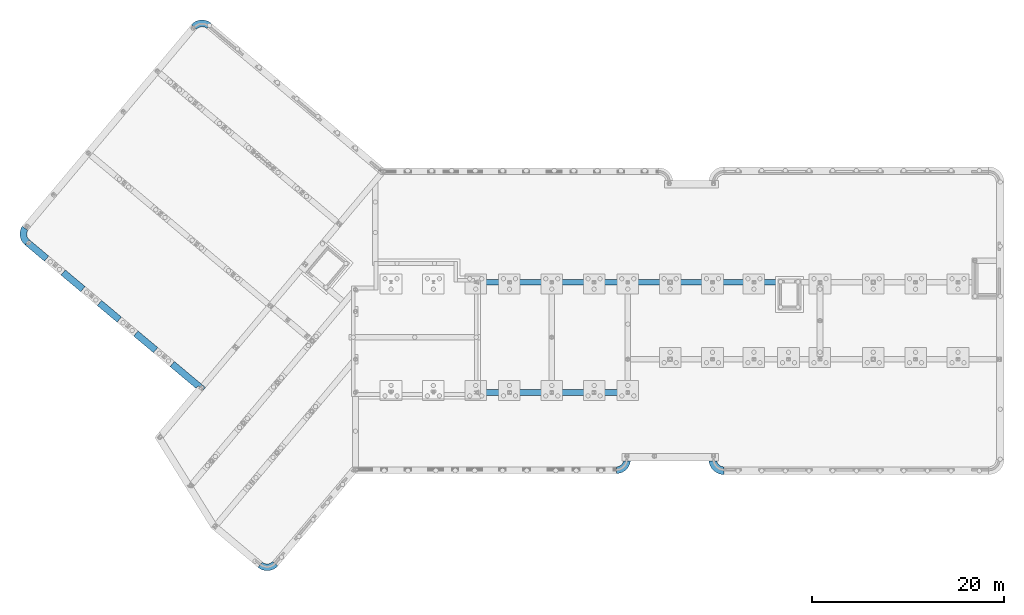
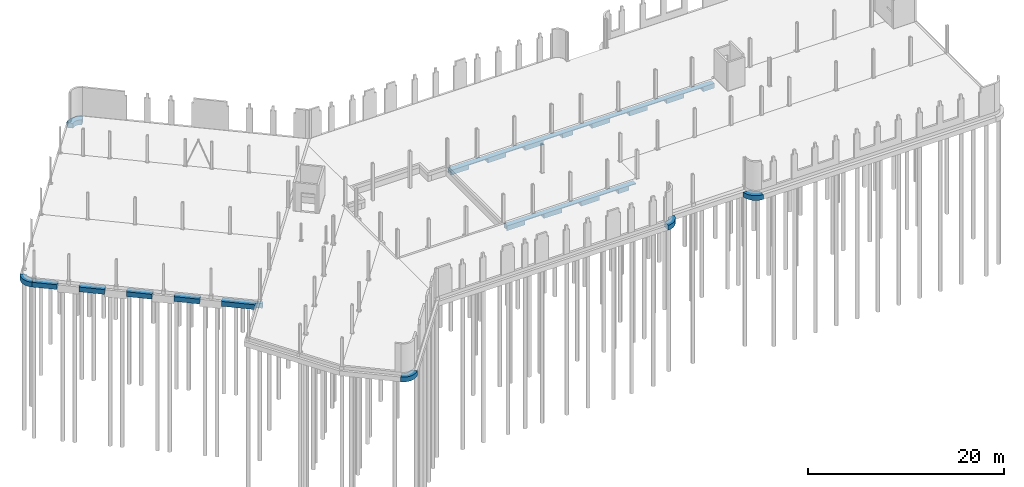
# One storey, part 23 of 26: 8 beams.
"""IFC2X3 building model written with IfcOpenShell, lengths in millimetres."""

from ifc_helpers import new_model, entity, si_unit, converted_unit, derived_unit, direction, frame, origin, place, context, subcontext, project, spatial, faceted_brep, source, transform, mapped, material, type_object, type_shapes, element, save


model = new_model("IFC2X3")

# Units and contexts
model_context = context("Model", 3, precision=0.01, world=origin(), true_north=direction((6.123031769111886e-17, 1.0)))
body_context = subcontext(model_context, "Body", "Model", "MODEL_VIEW")
ifc_project = project(units=[si_unit("LENGTHUNIT", "METRE", prefix="MILLI"), si_unit("AREAUNIT", "SQUARE_METRE"), si_unit("VOLUMEUNIT", "CUBIC_METRE"), derived_unit("MASSDENSITYUNIT", [(si_unit("MASSUNIT", "GRAM", prefix="KILO"), 1), (si_unit("LENGTHUNIT", "METRE"), -3)]), si_unit("MASSUNIT", "GRAM", prefix="KILO"), converted_unit("PLANEANGLEUNIT", "DEGREE", entity("IfcPlaneAngleMeasure", 0.017453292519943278), si_unit("PLANEANGLEUNIT", "RADIAN"), dimensions=[0, 0, 0, 0, 0, 0, 0])], contexts=[model_context])

# Site, building, storey
site_placement = place(None, origin())
site = spatial("IfcSite", under=ifc_project, at=site_placement, Name="Default", CompositionType="ELEMENT")
building_placement = place(site_placement, origin())
building = spatial("IfcBuilding", under=site, at=building_placement, Name="AT constructie", CompositionType="ELEMENT")
storey_placement = place(building_placement, origin())
storey = spatial("IfcBuildingStorey", under=building, at=storey_placement, Name="00 begane grond", CompositionType="ELEMENT", Elevation=-1.0828671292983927e-12)

# Beams
ifc_material = material(Name="f2_beton ihwg_gen")
beam_type_1 = type_object("IfcBeamType", Name="fund vierkant_gen_800x600", PredefinedType="NOTDEFINED")
beam_1_placement = place(storey_placement, frame((77870.22380400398, 11283.44823628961, -1050.0), z_axis=(0.0, 0.0, -1.0), x_axis=(-1.0, 0.0, 0.0)))
element("IfcBeam", 1, at=beam_1_placement, inside=storey, type_object=beam_type_1, material=ifc_material, Name="NLRS_16_SF_LIB_balk fundering beton_gen_AT:fund vierkant_gen_800x600", ObjectType="NLRS_16_SF_LIB_balk fundering beton_gen_AT:fund vierkant_gen_800x600", context=body_context, shape_type="Brep", body=[
    faceted_brep([(-1576.6508271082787, 801.5952722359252, -600.0), (-1481.7136797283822, 807.349837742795, -600.0), (-1388.1666647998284, 824.5292721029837, -600.0), (-1297.3795594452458, 852.8820226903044, -600.0), (-1210.6817284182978, 891.9929297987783, -600.0), (-1129.3426586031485, 941.2893056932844, -600.0), (-1054.5533703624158, 1000.0493202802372, -600.0), (-987.4089778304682, 1067.4125706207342, -600.0), (-928.8926535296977, 1142.3926795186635, -600.0), (-879.8612321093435, 1223.8917387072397, -600.0), (-841.032664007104, 1310.716385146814, -600.0), (-812.9755028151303, 1401.5952747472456, -600.0), (-1.5952722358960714, 1401.595274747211, -600.0), (-23.227712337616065, 1267.7943552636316, -600.0), (-56.20524086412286, 1136.3290323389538, -600.0), (-100.28701359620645, 1008.1594344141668, -600.0), (-155.15108887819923, 884.2216203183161, -600.0), (-220.39677884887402, 765.4207429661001, -600.0), (-295.54757577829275, 652.6244387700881, -600.0), (-380.0546321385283, 546.6564910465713, -600.0), (-473.30076899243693, 448.2908136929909, -600.0), (-574.6049834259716, 358.24579907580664, -600.0), (-683.2274221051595, 277.17907140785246, -600.0), (-798.3747846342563, 205.68268393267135, -600.0), (-919.2061172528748, 144.27879499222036, -600.0), (-1044.8389545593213, 93.41585455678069, -600.0), (-1174.355764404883, 53.4653290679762, -600.0), (-1306.810648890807, 24.71898851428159, -600.0), (-1441.236252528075, 7.386775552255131, -600.0), (-1576.650827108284, 1.595272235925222, -600.0), (-1441.236252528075, 7.386775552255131, 0.0), (-1306.810648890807, 24.71898851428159, 0.0), (-1576.650827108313, 1.595272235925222, 0.0), (-1174.355764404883, 53.4653290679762, 0.0), (-683.2274221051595, 277.17907140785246, 0.0), (-798.3747846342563, 205.68268393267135, 0.0), (-1044.8389545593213, 93.41585455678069, 0.0), (-919.2061172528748, 144.27879499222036, 0.0), (-574.6049834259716, 358.24579907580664, 0.0), (-473.30076899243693, 448.2908136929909, 0.0), (-380.0546321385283, 546.6564910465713, 0.0), (-295.54757577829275, 652.6244387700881, 0.0), (-220.39677884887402, 765.4207429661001, 0.0), (-23.227712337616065, 1267.7943552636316, 0.0), (-56.20524086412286, 1136.3290323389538, 0.0), (-155.15108887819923, 884.2216203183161, 0.0), (-100.28701359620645, 1008.1594344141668, 0.0), (-1.5952722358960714, 1401.595274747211, 0.0), (-812.9755028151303, 1401.5952747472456, 0.0), (-841.032664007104, 1310.7163851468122, 0.0), (-879.8612321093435, 1223.8917387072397, 0.0), (-928.8926535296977, 1142.3926795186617, 0.0), (-987.4089778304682, 1067.4125706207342, 0.0), (-1054.5533703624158, 1000.049320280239, 0.0), (-1129.3426586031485, 941.2893056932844, 0.0), (-1210.6817284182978, 891.9929297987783, 0.0), (-1297.3795594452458, 852.8820226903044, 0.0), (-1388.1666647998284, 824.5292721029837, 0.0), (-1481.7136797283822, 807.3498377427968, 0.0), (-1576.6508271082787, 801.5952722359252, 0.0)], [[[0, 1, 2, 3, 4, 5, 6, 7, 8, 9, 10, 11, 12, 13, 14, 15, 16, 17, 18, 19, 20, 21, 22, 23, 24, 25, 26, 27, 28, 29]], [[30, 28, 27, 31]], [[32, 29, 28, 30]], [[31, 27, 26, 33]], [[23, 22, 34, 35]], [[36, 25, 24, 37]], [[37, 24, 23, 35]], [[26, 25, 36, 33]], [[34, 22, 21, 38]], [[21, 20, 39, 38]], [[40, 19, 18, 41]], [[39, 20, 19, 40]], [[41, 18, 17, 42]], [[14, 13, 43, 44]], [[45, 16, 15, 46]], [[46, 15, 14, 44]], [[17, 16, 45, 42]], [[43, 13, 12, 47]], [[32, 30, 31, 33, 36, 37, 35, 34, 38, 39, 40, 41, 42, 45, 46, 44, 43, 47, 48, 49, 50, 51, 52, 53, 54, 55, 56, 57, 58, 59]], [[1, 0, 59, 58]], [[1, 58, 57, 2]], [[4, 3, 56, 55]], [[57, 56, 3, 2]], [[5, 4, 55, 54]], [[54, 53, 6, 5]], [[7, 6, 53, 52]], [[7, 52, 51, 8]], [[10, 9, 50, 49]], [[51, 50, 9, 8]], [[11, 10, 49, 48]], [[29, 32, 59, 0]], [[47, 12, 11, 48]]]),
])
beam_type_2 = type_object("IfcBeamType", Name="fund vierkant_gen_700x600", PredefinedType="NOTDEFINED")
beam_2_placement = place(storey_placement, frame((24100.44900854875, 57553.58085823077, -1050.0), z_axis=(0.0, 0.0, -1.0), x_axis=(-1.0, 0.0, 0.0)))
element("IfcBeam", 2, at=beam_2_placement, inside=storey, type_object=beam_type_2, material=ifc_material, Name="NLRS_16_SF_LIB_balk fundering beton_gen_AT:fund vierkant_gen_700x600", ObjectType="NLRS_16_SF_LIB_balk fundering beton_gen_AT:fund vierkant_gen_700x600", context=body_context, shape_type="Brep", body=[
    faceted_brep([(-1959.7532288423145, 691.64728207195, -600.0), (-1845.8274136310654, 763.5070300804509, -600.0), (-1725.862718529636, 824.7555948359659, -600.0), (-1600.8447939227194, 874.8897476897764, -600.0), (-1471.800808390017, 913.497577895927, -600.0), (-1339.7910093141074, 940.261876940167, -600.0), (-1205.9000117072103, 954.9627447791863, -600.0), (-1071.2278868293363, 957.4793965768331, -600.0), (-936.8811238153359, 947.7911550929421, -600.0), (-803.9635385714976, 925.9776205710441, -600.0), (-673.5672046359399, 892.2180167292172, -600.0), (-546.763480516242, 846.7897182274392, -600.0), (-424.59420722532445, 790.0659717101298, -600.0), (-308.0631483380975, 722.5128291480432, -600.0), (-198.12774289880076, 644.6853186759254, -600.0), (-95.69123893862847, 557.2228843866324, -600.0), (-1.5952722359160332, 460.8441325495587, -600.0), (-530.0248254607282, 1.5952722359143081, -600.0), (-596.2378561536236, 66.13920495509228, -600.0), (-669.5726388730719, 122.46055373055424, -600.0), (-749.0142453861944, 169.7798504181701, -600.0), (-833.4632311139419, 207.4422121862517, -600.0), (-921.7508510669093, 234.9264048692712, -600.0), (-1012.6552348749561, 251.85205666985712, -600.0), (-1104.9182970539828, 257.98492237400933, -600.0), (-1197.263148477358, 253.24012522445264, -600.0), (-1288.411768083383, 237.68333158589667, -600.0), (-1377.1026902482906, 211.5298421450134, -600.0), (-1462.1084630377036, 175.14161222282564, -600.0), (-1542.252635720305, 129.02224243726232, -600.0), (-1616.4260404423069, 73.81000904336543, -600.0), (-2066.704130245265, 609.7667627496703, -600.0), (-95.69123893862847, 557.2228843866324, 0.0), (-198.12774289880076, 644.6853186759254, 0.0), (-1.5952722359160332, 460.8441325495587, 0.0), (-308.0631483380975, 722.5128291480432, 0.0), (-803.9635385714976, 925.9776205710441, 0.0), (-673.5672046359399, 892.2180167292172, 0.0), (-424.59420722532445, 790.0659717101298, 0.0), (-546.763480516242, 846.7897182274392, 0.0), (-936.8811238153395, 947.7911550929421, 0.0), (-1071.2278868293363, 957.4793965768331, 0.0), (-1205.9000117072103, 954.9627447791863, 0.0), (-1339.7910093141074, 940.261876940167, 0.0), (-1471.800808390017, 913.497577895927, 0.0), (-1959.7532288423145, 691.64728207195, 0.0), (-1845.8274136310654, 763.5070300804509, 0.0), (-1600.8447939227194, 874.8897476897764, 0.0), (-1725.862718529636, 824.7555948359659, 0.0), (-2066.704130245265, 609.7667627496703, 0.0), (-1616.4260404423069, 73.81000904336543, 0.0), (-1542.252635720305, 129.02224243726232, 0.0), (-1462.1084630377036, 175.14161222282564, 0.0), (-1377.1026902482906, 211.5298421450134, 0.0), (-1288.411768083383, 237.68333158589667, 0.0), (-1197.263148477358, 253.24012522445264, 0.0), (-1104.9182970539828, 257.98492237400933, 0.0), (-1012.6552348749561, 251.85205666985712, 0.0), (-921.7508510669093, 234.9264048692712, 0.0), (-833.4632311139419, 207.4422121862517, 0.0), (-749.0142453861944, 169.7798504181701, 0.0), (-669.5726388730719, 122.46055373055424, 0.0), (-596.2378561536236, 66.13920495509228, 0.0), (-530.0248254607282, 1.5952722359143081, 0.0)], [[[0, 1, 2, 3, 4, 5, 6, 7, 8, 9, 10, 11, 12, 13, 14, 15, 16, 17, 18, 19, 20, 21, 22, 23, 24, 25, 26, 27, 28, 29, 30, 31]], [[32, 15, 14, 33]], [[34, 16, 15, 32]], [[33, 14, 13, 35]], [[10, 9, 36, 37]], [[38, 12, 11, 39]], [[39, 11, 10, 37]], [[13, 12, 38, 35]], [[36, 9, 8, 40]], [[8, 7, 41, 40]], [[42, 6, 5, 43]], [[41, 7, 6, 42]], [[43, 5, 4, 44]], [[1, 0, 45, 46]], [[47, 3, 2, 48]], [[48, 2, 1, 46]], [[4, 3, 47, 44]], [[45, 0, 31, 49]], [[49, 50, 51, 52, 53, 54, 55, 56, 57, 58, 59, 60, 61, 62, 63, 34, 32, 33, 35, 38, 39, 37, 36, 40, 41, 42, 43, 44, 47, 48, 46, 45]], [[18, 17, 63, 62]], [[18, 62, 61, 19]], [[59, 58, 22, 21]], [[21, 20, 60, 59]], [[20, 19, 61, 60]], [[23, 22, 58, 57]], [[57, 56, 24, 23]], [[25, 24, 56, 55]], [[25, 55, 54, 26]], [[52, 51, 29, 28]], [[28, 27, 53, 52]], [[27, 26, 54, 53]], [[30, 29, 51, 50]], [[30, 50, 49, 31]], [[17, 16, 34, 63]]]),
])
beam_3_placement = place(storey_placement, frame((6295.653060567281, 35133.452745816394, -1050.0), z_axis=(0.0, 0.0, -1.0), x_axis=(1.0, 0.0, 0.0)))
element("IfcBeam", 3, at=beam_3_placement, inside=storey, type_object=beam_type_2, material=ifc_material, Name="NLRS_16_SF_LIB_balk fundering beton_gen_AT:fund vierkant_gen_700x600", ObjectType="NLRS_16_SF_LIB_balk fundering beton_gen_AT:fund vierkant_gen_700x600", context=body_context, shape_type="Brep", body=[
    faceted_brep([(1.595272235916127, -1181.4801563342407, -600.0), (3.879105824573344, -1047.7120887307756, -600.0), (18.1848820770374, -914.6915768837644, -600.0), (44.396641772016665, -783.4968534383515, -600.0), (82.30191861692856, -655.1913516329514, -600.0), (131.59346144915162, -530.8150853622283, -600.0), (191.87172474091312, -411.37621907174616, -600.0), (262.6481072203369, -297.8428958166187, -600.0), (343.348912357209, -191.1353897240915, -600.0), (433.3199986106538, -92.11864647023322, -600.0), (531.8320817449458, -1.5952722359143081, -600.0), (981.7834085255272, -537.8263824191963, -600.0), (909.8217014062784, -606.4164545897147, -600.0), (847.093536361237, -683.5414349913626, -600.0), (794.6023964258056, -767.9675300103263, -600.0), (753.187999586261, -858.344147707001, -600.0), (723.5128655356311, -953.2255036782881, -600.0), (706.051717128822, -1051.0937497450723, -600.0), (701.0838860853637, -1150.383255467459, -600.0), (708.6888444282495, -1249.5056540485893, -600.0), (728.7449331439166, -1346.8752519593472, -600.0), (760.9313084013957, -1440.9343957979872, -600.0), (804.733074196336, -1530.178390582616, -600.0), (234.61576085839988, -1939.7457130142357, -600.0), (167.75622606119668, -1823.8625200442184, -600.0), (111.59028495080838, -1702.4355919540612, -600.0), (66.57320529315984, -1576.4491865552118, -600.0), (33.06988483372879, -1446.9245196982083, -600.0), (11.351893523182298, -1314.9114875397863, -600.0), (343.348912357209, -191.1353897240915, 0.0), (262.6481072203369, -297.8428958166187, 0.0), (433.3199986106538, -92.11864647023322, 0.0), (191.87172474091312, -411.37621907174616, 0.0), (44.396641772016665, -783.4968534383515, 0.0), (82.30191861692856, -655.1913516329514, 0.0), (131.59346144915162, -530.8150853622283, 0.0), (18.1848820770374, -914.6915768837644, 0.0), (531.8320817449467, -1.5952722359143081, 0.0), (1.595272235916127, -1181.4801563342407, 0.0), (11.351893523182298, -1314.9114875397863, 0.0), (3.879105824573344, -1047.7120887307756, 0.0), (33.06988483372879, -1446.9245196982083, 0.0), (167.75622606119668, -1823.8625200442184, 0.0), (111.59028495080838, -1702.4355919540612, 0.0), (66.57320529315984, -1576.4491865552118, 0.0), (234.61576085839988, -1939.7457130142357, 0.0), (804.7330741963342, -1530.178390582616, 0.0), (760.9313084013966, -1440.9343957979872, 0.0), (728.7449331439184, -1346.8752519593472, 0.0), (708.6888444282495, -1249.5056540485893, 0.0), (701.0838860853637, -1150.3832554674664, 0.0), (706.051717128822, -1051.0937497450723, 0.0), (723.5128655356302, -953.2255036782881, 0.0), (753.18799958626, -858.344147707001, 0.0), (794.6023964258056, -767.9675300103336, 0.0), (847.0935363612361, -683.5414349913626, 0.0), (909.8217014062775, -606.4164545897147, 0.0), (981.7834085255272, -537.8263824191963, 0.0)], [[[0, 1, 2, 3, 4, 5, 6, 7, 8, 9, 10, 11, 12, 13, 14, 15, 16, 17, 18, 19, 20, 21, 22, 23, 24, 25, 26, 27, 28]], [[29, 8, 7, 30]], [[31, 9, 8, 29]], [[30, 7, 6, 32]], [[4, 3, 33, 34]], [[35, 5, 4, 34]], [[32, 6, 5, 35]], [[33, 3, 2, 36]], [[10, 9, 31, 37]], [[38, 0, 28, 39]], [[40, 1, 0, 38]], [[39, 28, 27, 41]], [[25, 24, 42, 43]], [[44, 26, 25, 43]], [[41, 27, 26, 44]], [[42, 24, 23, 45]], [[36, 2, 1, 40]], [[39, 41, 44, 43, 42, 45, 46, 47, 48, 49, 50, 51, 52, 53, 54, 55, 56, 57, 37, 31, 29, 30, 32, 35, 34, 33, 36, 40, 38]], [[12, 11, 57, 56]], [[12, 56, 55, 13]], [[15, 14, 54, 53]], [[55, 54, 14, 13]], [[16, 15, 53, 52]], [[52, 51, 17, 16]], [[18, 17, 51, 50]], [[18, 50, 49, 19]], [[21, 20, 48, 47]], [[49, 48, 20, 19]], [[22, 21, 47, 46]], [[46, 45, 23, 22]], [[10, 37, 57, 11]]]),
])
beam_4_placement = place(storey_placement, frame((68245.27935887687, 11383.448236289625, -1050.0), z_axis=(0.0, 0.0, -1.0), x_axis=(1.0, 0.0, 0.0)))
element("IfcBeam", 4, at=beam_4_placement, inside=storey, type_object=beam_type_2, material=ifc_material, Name="NLRS_16_SF_LIB_balk fundering beton_gen_AT:fund vierkant_gen_700x600", ObjectType="NLRS_16_SF_LIB_balk fundering beton_gen_AT:fund vierkant_gen_700x600", context=body_context, shape_type="Brep", body=[
    faceted_brep([(765.2705965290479, -1301.5952747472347, -600.0), (739.9683917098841, -1218.1492916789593, -600.0), (705.5796467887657, -1138.0212451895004, -600.0), (662.5284133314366, -1062.1973608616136, -600.0), (611.3447613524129, -991.6098283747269, -600.0), (552.658532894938, -927.1264660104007, -600.0), (487.1916231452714, -869.5401096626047, -600.0), (415.7491413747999, -819.5589164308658, -600.0), (339.20955880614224, -777.7977000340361, -600.0), (258.51396264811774, -744.7704028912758, -600.0), (174.65454627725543, -720.8837960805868, -600.0), (88.66440448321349, -706.4326987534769, -600.0), (1.595272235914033, -701.5952722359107, -600.0), (1.595272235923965, -1.5952722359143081, -600.0), (135.64493519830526, -7.653824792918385, -600.0), (268.60153365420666, -25.7800799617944, -600.0), (399.380916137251, -55.826233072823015, -600.0), (526.9166845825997, -97.54728251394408, -600.0), (650.1688899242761, -150.60302751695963, -600.0), (768.1325120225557, -214.56084221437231, -600.0), (879.845654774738, -288.89920334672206, -600.0), (984.3973895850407, -373.0119428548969, -600.0), (1080.93518323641, -466.21319068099, -600.0), (1168.6718495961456, -567.7429674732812, -600.0), (1246.8919684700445, -676.7733815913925, -600.0), (1314.957719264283, -792.4153798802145, -600.0), (1372.314081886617, -913.7259971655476, -600.0), (1418.4933624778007, -1039.716045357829, -600.0), (1453.1190070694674, -1169.358179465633, -600.0), (1475.9086720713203, -1301.595274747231, -600.0), (1418.4933624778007, -1039.7160453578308, 0.0), (1372.314081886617, -913.7259971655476, 0.0), (1453.1190070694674, -1169.358179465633, 0.0), (1314.957719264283, -792.4153798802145, 0.0), (1080.93518323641, -466.21319068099, 0.0), (1168.6718495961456, -567.7429674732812, 0.0), (1246.8919684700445, -676.7733815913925, 0.0), (984.3973895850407, -373.0119428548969, 0.0), (1475.9086720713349, -1301.5952747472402, 0.0), (768.1325120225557, -214.56084221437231, 0.0), (650.1688899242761, -150.60302751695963, 0.0), (879.845654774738, -288.89920334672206, 0.0), (526.9166845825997, -97.54728251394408, 0.0), (135.64493519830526, -7.653824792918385, 0.0), (268.60153365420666, -25.7800799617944, 0.0), (399.380916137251, -55.826233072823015, 0.0), (1.595272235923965, -1.5952722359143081, 0.0), (1.595272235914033, -701.5952722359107, 0.0), (88.66440448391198, -706.4326987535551, 0.0), (174.65454632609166, -720.883796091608, 0.0), (258.51396273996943, -744.7704029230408, 0.0), (339.20955891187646, -777.7977000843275, 0.0), (415.7491414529, -819.5589164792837, 0.0), (487.1916231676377, -869.540109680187, 0.0), (552.6585328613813, -927.1264659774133, 0.0), (611.3447612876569, -991.6098282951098, 0.0), (662.5284132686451, -1062.1973607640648, 0.0), (705.5796467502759, -1138.0212451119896, 0.0), (739.9683916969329, -1218.1492916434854, 0.0), (765.2705965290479, -1301.5952747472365, 0.0)], [[[0, 1, 2, 3, 4, 5, 6, 7, 8, 9, 10, 11, 12, 13, 14, 15, 16, 17, 18, 19, 20, 21, 22, 23, 24, 25, 26, 27, 28, 29]], [[30, 27, 26, 31]], [[32, 28, 27, 30]], [[31, 26, 25, 33]], [[23, 22, 34, 35]], [[36, 24, 23, 35]], [[33, 25, 24, 36]], [[34, 22, 21, 37]], [[29, 28, 32, 38]], [[39, 19, 18, 40]], [[41, 20, 19, 39]], [[40, 18, 17, 42]], [[15, 14, 43, 44]], [[45, 16, 15, 44]], [[42, 17, 16, 45]], [[43, 14, 13, 46]], [[37, 21, 20, 41]], [[38, 32, 30, 31, 33, 36, 35, 34, 37, 41, 39, 40, 42, 45, 44, 43, 46, 47, 48, 49, 50, 51, 52, 53, 54, 55, 56, 57, 58, 59]], [[1, 0, 59, 58]], [[1, 58, 57, 2]], [[4, 3, 56, 55]], [[57, 56, 3, 2]], [[5, 4, 55, 54]], [[53, 6, 5, 54]], [[8, 7, 52, 51]], [[8, 51, 50, 9]], [[11, 10, 48]], [[49, 10, 9, 50]], [[12, 11, 48, 47]], [[6, 53, 52, 7]], [[10, 49, 48]], [[0, 29, 38, 59]], [[12, 47, 46, 13]]]),
])
beam_5_placement = place(storey_placement, frame((31023.251360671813, 1297.1674852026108, -1050.0), z_axis=(0.0, 0.0, -1.0), x_axis=(1.0, 0.0, 0.0)))
element("IfcBeam", 5, at=beam_5_placement, inside=storey, type_object=beam_type_2, material=ifc_material, Name="NLRS_16_SF_LIB_balk fundering beton_gen_AT:fund vierkant_gen_700x600", ObjectType="NLRS_16_SF_LIB_balk fundering beton_gen_AT:fund vierkant_gen_700x600", context=body_context, shape_type="Brep", body=[
    faceted_brep([(108.54656797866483, -267.39547035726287, -600.0), (222.47205839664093, -195.54157903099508, -600.0), (342.4357594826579, -134.29854279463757, -600.0), (467.4520787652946, -84.16951947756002, -600.0), (596.4939126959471, -45.56635689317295, -600.0), (728.5010850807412, -18.806209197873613, -600.0), (862.3890572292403, -4.108931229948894, -600.0), (997.0578382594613, -1.5952722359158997, -600.0), (1131.40102235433, -11.285883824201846, -600.0), (1264.3148787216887, -33.10115029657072, -600.0), (1394.7074195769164, -66.86184275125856, -600.0), (1521.5073716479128, -112.29059158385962, -600.0), (1643.6729774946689, -169.01416528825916, -600.0), (1760.2005543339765, -236.56653683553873, -600.0), (1870.1327400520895, -314.39271243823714, -600.0), (1972.5663586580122, -401.85329124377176, -600.0), (2066.6598405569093, -498.22971849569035, -600.0), (1538.2302876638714, -957.4785792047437, -600.0), (1472.019035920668, -892.936187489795, -600.0), (1398.68636945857, -836.6159405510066, -600.0), (1319.2471356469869, -789.2972516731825, -600.0), (1234.8006903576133, -751.6349619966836, -600.0), (1146.5156840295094, -724.1502782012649, -600.0), (1055.6138887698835, -707.2235595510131, -600.0), (963.3532903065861, -701.0890541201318, -600.0), (871.0106787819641, -705.8316570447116, -600.0), (779.8639793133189, -721.3857356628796, -600.0), (691.1745668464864, -747.5360378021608, -600.0), (606.1698100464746, -783.9206706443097, -600.0), (526.0260857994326, -830.036108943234, -600.0), (451.85249938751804, -885.244163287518, -600.0), (1.5952722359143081, -349.2698827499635, -600.0), (1972.5663586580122, -401.85329124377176, 0.0), (1870.1327400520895, -314.39271243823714, 0.0), (2066.6598405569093, -498.22971849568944, 0.0), (1760.2005543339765, -236.56653683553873, 0.0), (1264.3148787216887, -33.10115029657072, 0.0), (1394.7074195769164, -66.86184275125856, 0.0), (1643.6729774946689, -169.01416528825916, 0.0), (1521.5073716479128, -112.29059158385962, 0.0), (1131.40102235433, -11.285883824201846, 0.0), (997.0578382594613, -1.5952722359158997, 0.0), (862.3890572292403, -4.108931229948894, 0.0), (728.5010850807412, -18.806209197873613, 0.0), (596.4939126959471, -45.56635689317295, 0.0), (108.54656797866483, -267.39547035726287, 0.0), (222.47205839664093, -195.54157903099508, 0.0), (467.4520787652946, -84.16951947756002, 0.0), (342.4357594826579, -134.29854279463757, 0.0), (1.5952722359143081, -349.2698827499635, 0.0), (451.85249938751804, -885.244163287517, 0.0), (526.0260857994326, -830.036108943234, 0.0), (606.1698100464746, -783.9206706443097, 0.0), (691.1745668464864, -747.5360378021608, 0.0), (779.8639793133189, -721.3857356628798, 0.0), (871.0106787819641, -705.8316570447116, 0.0), (963.3532903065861, -701.0890541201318, 0.0), (1055.6138887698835, -707.2235595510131, 0.0), (1146.5156840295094, -724.1502782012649, 0.0), (1234.8006903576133, -751.6349619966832, 0.0), (1319.2471356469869, -789.2972516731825, 0.0), (1398.68636945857, -836.6159405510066, 0.0), (1472.019035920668, -892.936187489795, 0.0), (1538.2302876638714, -957.4785792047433, 0.0)], [[[0, 1, 2, 3, 4, 5, 6, 7, 8, 9, 10, 11, 12, 13, 14, 15, 16, 17, 18, 19, 20, 21, 22, 23, 24, 25, 26, 27, 28, 29, 30, 31]], [[32, 15, 14, 33]], [[34, 16, 15, 32]], [[33, 14, 13, 35]], [[10, 9, 36, 37]], [[38, 12, 11, 39]], [[39, 11, 10, 37]], [[13, 12, 38, 35]], [[36, 9, 8, 40]], [[8, 7, 41, 40]], [[42, 6, 5, 43]], [[41, 7, 6, 42]], [[43, 5, 4, 44]], [[1, 0, 45, 46]], [[47, 3, 2, 48]], [[48, 2, 1, 46]], [[4, 3, 47, 44]], [[45, 0, 31, 49]], [[49, 50, 51, 52, 53, 54, 55, 56, 57, 58, 59, 60, 61, 62, 63, 34, 32, 33, 35, 38, 39, 37, 36, 40, 41, 42, 43, 44, 47, 48, 46, 45]], [[18, 17, 63, 62]], [[18, 62, 61, 19]], [[59, 58, 22, 21]], [[21, 20, 60, 59]], [[20, 19, 61, 60]], [[23, 22, 58, 57]], [[57, 56, 24, 23]], [[25, 24, 56, 55]], [[25, 55, 54, 26]], [[52, 51, 29, 28]], [[28, 27, 53, 52]], [[27, 26, 54, 53]], [[30, 29, 51, 50]], [[34, 63, 17, 16]], [[49, 31, 30, 50]]]),
])
beam_type_3 = type_object("IfcBeamType", Name="fund vierkant_gen_700x600", PredefinedType="BEAM", material=ifc_material)
shared_shape = source(origin(), body_context, "Body", "Brep", [
    faceted_brep([(17754.229035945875, 181.83577168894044, 600.0), (17979.20469933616, 449.9513267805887, 600.0), (18515.43580951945, 0.0, 600.0), (18740.41147290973, 268.1155550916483, 600.0), (18280.784807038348, 653.7881209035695, 600.0), (15508.469967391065, 2980.0364803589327, 600.0), (15058.51864061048, 2443.80537017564, 600.0), (17754.229035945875, 181.83577168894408, 0.0), (15058.51864061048, 2443.80537017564, 0.0), (17979.20469933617, 449.9513267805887, 0.0), (15508.469967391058, 2980.0364803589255, 0.0), (18280.784807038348, 653.7881209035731, 0.0), (18740.41147290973, 268.1155550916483, 0.0), (18515.435809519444, 0.0, 0.0)], [[[0, 1, 2, 3, 4, 5, 6]], [[7, 0, 6, 8]], [[9, 7, 8, 10, 11, 12, 13]], [[3, 12, 11, 10, 5, 4]], [[1, 0, 7, 9]], [[1, 9, 13, 2]], [[12, 3, 2, 13]], [[6, 5, 10, 8]]]),
    faceted_brep([(449.9513267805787, 15615.633917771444, 600.0), (449.95132678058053, 15615.633917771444, 0.0), (0.0, 15079.402807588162, 0.0), (0.0, 15079.402807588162, 600.0), (2455.0726566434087, 13933.137349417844, 600.0), (2005.1213298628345, 13396.906239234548, 600.0), (2005.1213298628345, 13396.906239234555, 0.0), (2455.0726566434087, 13933.137349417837, 0.0)], [[[0, 1, 2, 3]], [[4, 5, 6, 7]], [[0, 3, 5, 4]], [[3, 2, 6, 5]], [[2, 1, 7, 6]], [[1, 0, 4, 7]]]),
    faceted_brep([(6231.671761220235, 10764.194433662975, 600.0), (5781.720434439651, 10227.963323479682, 600.0), (5781.720434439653, 10227.96332347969, 0.0), (6231.671761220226, 10764.194433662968, 0.0), (4178.672653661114, 12486.865227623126, 600.0), (3728.721326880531, 11950.634117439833, 600.0), (3728.721326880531, 11950.634117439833, 0.0), (4178.672653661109, 12486.865227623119, 0.0)], [[[0, 1, 2, 3]], [[1, 0, 4, 5]], [[2, 1, 5, 6]], [[3, 2, 6, 7]], [[0, 3, 7, 4]], [[5, 4, 7, 6]]]),
    faceted_brep([(7505.320431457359, 8781.691201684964, 600.0), (7955.271758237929, 9317.922311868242, 600.0), (7955.271758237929, 9317.922311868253, 0.0), (7505.320431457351, 8781.691201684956, 0.0), (10008.270865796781, 7595.251517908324, 600.0), (9558.3195390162, 7059.020407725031, 600.0), (9558.319539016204, 7059.020407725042, 0.0), (10008.270865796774, 7595.25151790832, 0.0)], [[[0, 1, 2, 3]], [[4, 5, 6, 7]], [[1, 0, 5, 4]], [[0, 3, 6, 5]], [[3, 2, 7, 6]], [[2, 1, 4, 7]]]),
    faceted_brep([(11281.919536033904, 5612.74828593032, 600.0), (11731.870862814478, 6148.979396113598, 600.0), (11731.870862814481, 6148.979396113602, 0.0), (11281.919536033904, 5612.748285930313, 0.0), (13784.86997037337, 4426.308602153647, 600.0), (13334.918643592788, 3890.077491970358, 600.0), (13334.918643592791, 3890.0774919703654, 0.0), (13784.869970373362, 4426.308602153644, 0.0)], [[[0, 1, 2, 3]], [[4, 5, 6, 7]], [[1, 0, 5, 4]], [[0, 3, 6, 5]], [[3, 2, 7, 6]], [[2, 1, 4, 7]]]),
])
type_shapes(beam_type_3, [shared_shape])
beam_6_placement = place(storey_placement, frame((6827.485142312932, 20055.645210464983, -1050.0)))
element("IfcBeam", 6, at=beam_6_placement, inside=storey, type_object=beam_type_3, material=ifc_material, Name="NLRS_16_SF_LIB_balk fundering beton_gen_AT:fund vierkant_gen_700x600", ObjectType="NLRS_16_SF_LIB_balk fundering beton_gen_AT:fund vierkant_gen_700x600", context=body_context, shape_type="MappedRepresentation", body=[
    mapped(shared_shape, transform((0.0, 0.0, 0.0), scale=1.0)),
])
beam_type_4 = type_object("IfcBeamType", Name="fund vierkant_gen_600x600", PredefinedType="NOTDEFINED")
beam_7_placement = place(storey_placement, frame((53896.87463111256, 19521.04350852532, -1050.0)))
element("IfcBeam", 7, at=beam_7_placement, inside=storey, type_object=beam_type_4, material=ifc_material, Name="NLRS_16_SF_LIB_balk fundering beton_gen_AT:fund vierkant_gen_600x600", ObjectType="NLRS_16_SF_LIB_balk fundering beton_gen_AT:fund vierkant_gen_600x600", context=body_context, shape_type="Brep", body=[
    faceted_brep([(100.0, 550.0, 600.0), (100.0, 50.0, 600.0), (0.0, 50.0, 600.0), (0.0, 0.0, 600.0), (15250.0, 0.0, 600.0), (15250.0, 600.0, 600.0), (7945.0, 600.0, 600.0), (7345.0, 600.0, 600.0), (0.0, 600.0, 600.0), (0.0, 550.0, 600.0), (0.0, 600.0, 0.0), (15250.0, 600.0, 500.0), (14425.0, 600.0, 500.0), (14425.0, 600.0, 0.0), (13175.0, 600.0, 0.0), (13175.0, 600.0, 500.0), (10925.0, 600.0, 500.0), (10925.0, 600.0, 0.0), (8775.0, 600.0, 0.0), (8775.0, 600.0, 500.0), (7945.0, 600.0, 500.0), (7345.0, 600.0, 500.0), (6525.0, 600.0, 500.0), (6525.0, 600.0, 0.0), (4375.0, 600.0, 0.0), (4375.0, 600.0, 500.0), (2125.0, 600.0, 500.0), (2125.0, 600.0, 0.0), (100.0, 50.0, 0.0), (100.0, 550.0, 0.0), (0.0, 550.0, 0.0), (2125.0, 0.0, 0.0), (0.0, 0.0, 0.0), (0.0, 50.0, 0.0), (2125.0, 0.0, 500.0), (4375.0, 0.0, 500.0), (4375.0, 0.0, 0.0), (6525.0, 0.0, 0.0), (6525.0, 0.0, 500.0), (8775.0, 0.0, 500.0), (8775.0, 0.0, 0.0), (10925.0, 0.0, 0.0), (10925.0, 0.0, 500.0), (13175.0, 0.0, 500.0), (13175.0, 0.0, 0.0), (14425.0, 0.0, 0.0), (14425.0, 0.0, 500.0), (15250.0, 0.0, 500.0)], [[[0, 1, 2, 3, 4, 5, 6, 7, 8, 9]], [[10, 8, 7, 6, 5, 11, 12, 13, 14, 15, 16, 17, 18, 19, 20, 21, 22, 23, 24, 25, 26, 27]], [[28, 29, 30, 10, 27, 31, 32, 33]], [[3, 32, 31, 34, 35, 36, 37, 38, 39, 40, 41, 42, 43, 44, 45, 46, 47, 4]], [[29, 0, 9, 30]], [[1, 28, 33, 2]], [[0, 29, 28, 1]], [[3, 2, 33, 32]], [[46, 12, 11, 47]], [[12, 46, 45, 13]], [[42, 16, 15, 43]], [[43, 15, 14, 44]], [[16, 42, 41, 17]], [[13, 45, 44, 14]], [[38, 22, 21, 20, 19, 39]], [[39, 19, 18, 40]], [[22, 38, 37, 23]], [[17, 41, 40, 18]], [[34, 26, 25, 35]], [[35, 25, 24, 36]], [[26, 34, 31, 27]], [[23, 37, 36, 24]], [[5, 4, 47, 11]], [[9, 8, 10, 30]]]),
])
beam_8_placement = place(storey_placement, frame((53896.874631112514, 30971.043508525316, -1050.0)))
element("IfcBeam", 8, at=beam_8_placement, inside=storey, type_object=beam_type_4, material=ifc_material, Name="NLRS_16_SF_LIB_balk fundering beton_gen_AT:fund vierkant_gen_600x600", ObjectType="NLRS_16_SF_LIB_balk fundering beton_gen_AT:fund vierkant_gen_600x600", context=body_context, shape_type="Brep", body=[
    faceted_brep([(0.0, 0.0, 0.0), (0.0, 0.0, 600.0), (0.0, 50.0, 600.0), (0.0, 50.0, 0.0), (31134.0, 0.0, 600.0), (31134.0, 0.0, 0.0), (31134.0, 600.0, 0.0), (31134.0, 600.0, 600.0), (31134.0, 300.0, 600.0), (31134.0, 236.0, 600.0), (0.0, 600.0, 600.0), (0.0, 550.0, 600.0), (100.0, 550.0, 600.0), (100.0, 300.0, 600.0), (100.0, 50.0, 600.0), (7345.0, 0.0, 600.0), (7945.0, 0.0, 600.0), (15250.0, 0.0, 600.0), (15850.0, 0.0, 600.0), (0.0, 600.0, 0.0), (29775.0, 600.0, 0.0), (29775.0, 600.0, 500.0), (27525.0, 600.0, 500.0), (27525.0, 600.0, 0.0), (25475.0, 600.0, 0.0), (25475.0, 600.0, 500.0), (23225.0, 600.0, 500.0), (23225.0, 600.0, 0.0), (21075.0, 600.0, 0.0), (21075.0, 600.0, 500.0), (18825.0, 600.0, 500.0), (18825.0, 600.0, 0.0), (16675.0, 600.0, 0.0), (16675.0, 600.0, 500.0), (14425.0, 600.0, 500.0), (14425.0, 600.0, 0.0), (13175.0, 600.0, 0.0), (13175.0, 600.0, 500.0), (10925.0, 600.0, 500.0), (10925.0, 600.0, 0.0), (8775.0, 600.0, 0.0), (8775.0, 600.0, 500.0), (6525.0, 600.0, 500.0), (6525.0, 600.0, 0.0), (4375.0, 600.0, 0.0), (4375.0, 600.0, 500.0), (2125.0, 600.0, 500.0), (2125.0, 600.0, 0.0), (2125.0, 0.0, 0.0), (100.0, 50.0, 0.0), (100.0, 550.0, 0.0), (0.0, 550.0, 0.0), (2125.0, 0.0, 500.0), (4375.0, 0.0, 500.0), (4375.0, 0.0, 0.0), (6525.0, 0.0, 0.0), (6525.0, 0.0, 500.0), (7345.0, 0.0, 500.0), (7945.0, 0.0, 500.0), (8775.0, 0.0, 500.0), (8775.0, 0.0, 0.0), (10925.0, 0.0, 0.0), (10925.0, 0.0, 500.0), (13175.0, 0.0, 500.0), (13175.0, 0.0, 0.0), (14425.0, 0.0, 0.0), (14425.0, 0.0, 500.0), (15250.0, 0.0, 500.0), (15850.0, 0.0, 500.0), (16675.0, 0.0, 500.0), (16675.0, 0.0, 0.0), (18825.0, 0.0, 0.0), (18825.0, 0.0, 500.0), (21075.0, 0.0, 500.0), (21075.0, 0.0, 0.0), (23225.0, 0.0, 0.0), (23225.0, 0.0, 500.0), (25475.0, 0.0, 500.0), (25475.0, 0.0, 0.0), (27525.0, 0.0, 0.0), (27525.0, 0.0, 500.0), (29775.0, 0.0, 500.0), (29775.0, 0.0, 0.0)], [[[0, 1, 2, 3]], [[4, 5, 6, 7, 8, 9]], [[4, 9, 8, 7, 10, 11, 12, 13, 14, 2, 1, 15, 16, 17, 18]], [[19, 10, 7, 6, 20, 21, 22, 23, 24, 25, 26, 27, 28, 29, 30, 31, 32, 33, 34, 35, 36, 37, 38, 39, 40, 41, 42, 43, 44, 45, 46, 47]], [[19, 47, 48, 0, 3, 49, 50, 51]], [[1, 0, 48, 52, 53, 54, 55, 56, 57, 58, 59, 60, 61, 62, 63, 64, 65, 66, 67, 68, 69, 70, 71, 72, 73, 74, 75, 76, 77, 78, 79, 80, 81, 82, 5, 4, 18, 17, 16, 15]], [[29, 73, 72, 30]], [[30, 72, 71, 31]], [[73, 29, 28, 74]], [[74, 28, 27, 75]], [[33, 69, 68, 67, 66, 34]], [[69, 33, 32, 70]], [[34, 66, 65, 35]], [[31, 71, 70, 32]], [[37, 63, 62, 38]], [[38, 62, 61, 39]], [[63, 37, 36, 64]], [[35, 65, 64, 36]], [[41, 59, 58, 57, 56, 42]], [[42, 56, 55, 43]], [[59, 41, 40, 60]], [[39, 61, 60, 40]], [[45, 53, 52, 46]], [[46, 52, 48, 47]], [[53, 45, 44, 54]], [[43, 55, 54, 44]], [[25, 77, 76, 26]], [[26, 76, 75, 27]], [[77, 25, 24, 78]], [[78, 24, 23, 79]], [[21, 81, 80, 22]], [[22, 80, 79, 23]], [[81, 21, 20, 82]], [[6, 5, 82, 20]], [[50, 12, 11, 51]], [[14, 49, 3, 2]], [[12, 50, 49, 14, 13]], [[10, 19, 51, 11]]]),
])

save(model, "model.ifc")
